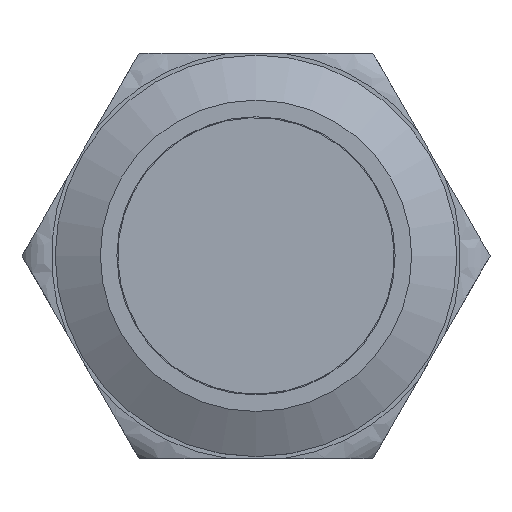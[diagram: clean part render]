
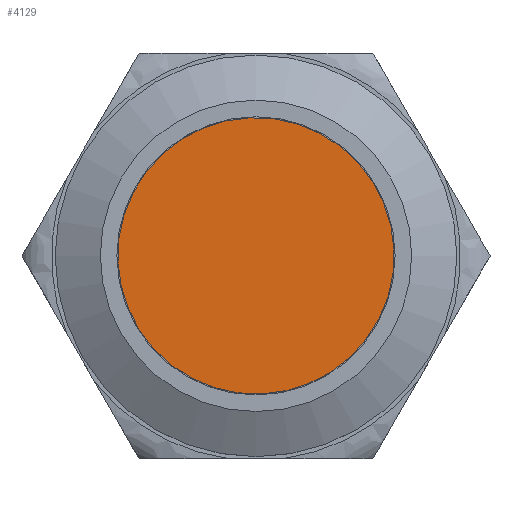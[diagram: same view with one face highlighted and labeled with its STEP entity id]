
A CAD part, top view. The second image highlights one B-rep face of the part: STEP entity #4129.
In plain terms, the highlighted planar face has unit normal (0, 0, 1).
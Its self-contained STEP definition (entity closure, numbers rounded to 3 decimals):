
#347=FACE_OUTER_BOUND('',#1677,.T.);
#523=PLANE('',#4994);
#638=CIRCLE('',#4990,7.5);
#1677=EDGE_LOOP('',(#2676));
#2676=ORIENTED_EDGE('',*,*,#3544,.T.);
#3544=EDGE_CURVE('',#4632,#4632,#638,.T.);
#4129=ADVANCED_FACE('',(#347),#523,.F.);
#4632=VERTEX_POINT('',#11639);
#4990=AXIS2_PLACEMENT_3D('',#11638,#5813,#5814);
#4994=AXIS2_PLACEMENT_3D('',#11644,#5821,#5822);
#5813=DIRECTION('',(0.,0.,1.));
#5814=DIRECTION('',(-0.924,-0.383,0.));
#5821=DIRECTION('',(0.,0.,-1.));
#5822=DIRECTION('',(-0.924,-0.383,0.));
#11638=CARTESIAN_POINT('',(0.,0.,11.3));
#11639=CARTESIAN_POINT('',(-6.928,-2.873,11.3));
#11644=CARTESIAN_POINT('',(0.,0.,11.3));
